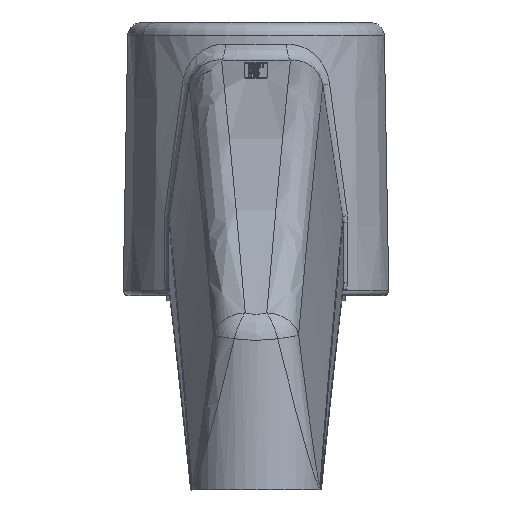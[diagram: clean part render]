
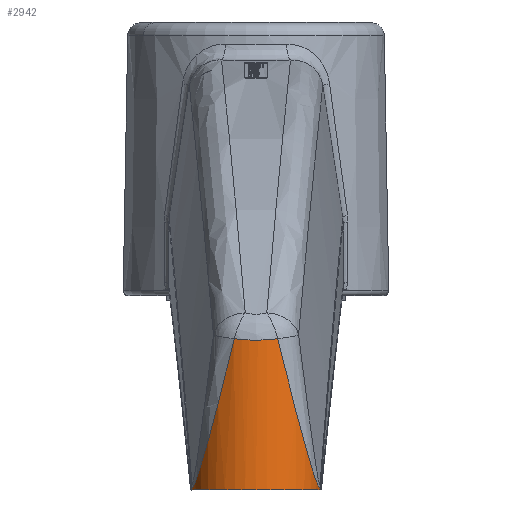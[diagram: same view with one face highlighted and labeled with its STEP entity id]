
A CAD part, front view. The second image highlights one B-rep face of the part: STEP entity #2942.
In plain terms, the highlighted cylindrical face has radius 20 mm (diameter 40 mm), a partial arc.
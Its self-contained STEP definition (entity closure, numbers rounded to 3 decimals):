
#2157=CARTESIAN_POINT('Vertex',(19.961,-226.243,0.)) ;
#2160=CARTESIAN_POINT('Axis2P3D Location',(0.,-225.,0.)) ;
#2164=CARTESIAN_POINT('Vertex',(-19.961,-226.243,0.)) ;
#2845=CARTESIAN_POINT('Axis2P3D Location',(0.,-225.,70.)) ;
#2851=CARTESIAN_POINT('Control Point',(6.663,-243.857,46.678)) ;
#2852=CARTESIAN_POINT('Control Point',(7.015,-243.733,45.256)) ;
#2853=CARTESIAN_POINT('Control Point',(7.368,-243.599,43.834)) ;
#2854=CARTESIAN_POINT('Control Point',(7.721,-243.455,42.415)) ;
#2855=CARTESIAN_POINT('Control Point',(8.785,-242.993,38.158)) ;
#2856=CARTESIAN_POINT('Control Point',(9.857,-242.431,33.917)) ;
#2857=CARTESIAN_POINT('Control Point',(10.575,-242.008,31.101)) ;
#2858=CARTESIAN_POINT('Control Point',(11.9,-241.13,25.96)) ;
#2859=CARTESIAN_POINT('Control Point',(13.251,-240.013,20.852)) ;
#2860=CARTESIAN_POINT('Control Point',(13.865,-239.452,18.563)) ;
#2861=CARTESIAN_POINT('Control Point',(14.891,-238.414,14.802)) ;
#2862=CARTESIAN_POINT('Control Point',(15.952,-237.091,11.083)) ;
#2863=CARTESIAN_POINT('Control Point',(16.366,-236.53,9.664)) ;
#2864=CARTESIAN_POINT('Control Point',(17.037,-235.535,7.419)) ;
#2865=CARTESIAN_POINT('Control Point',(17.739,-234.262,5.237)) ;
#2866=CARTESIAN_POINT('Control Point',(17.995,-233.759,4.468)) ;
#2867=CARTESIAN_POINT('Control Point',(18.407,-232.876,3.279)) ;
#2868=CARTESIAN_POINT('Control Point',(18.833,-231.753,2.202)) ;
#2869=CARTESIAN_POINT('Control Point',(18.988,-231.312,1.835)) ;
#2870=CARTESIAN_POINT('Control Point',(19.219,-230.577,1.337)) ;
#2871=CARTESIAN_POINT('Control Point',(19.435,-229.732,0.984)) ;
#2872=CARTESIAN_POINT('Control Point',(19.505,-229.437,0.885)) ;
#2873=CARTESIAN_POINT('Control Point',(19.689,-228.582,0.68)) ;
#2874=CARTESIAN_POINT('Control Point',(19.828,-227.711,0.687)) ;
#2875=CARTESIAN_POINT('Control Point',(19.89,-227.183,0.784)) ;
#2876=CARTESIAN_POINT('Control Point',(19.933,-226.696,0.936)) ;
#2877=CARTESIAN_POINT('Control Point',(19.961,-226.243,1.129)) ;
#2878=CARTESIAN_POINT('Vertex',(6.663,-243.857,46.678)) ;
#2880=CARTESIAN_POINT('Vertex',(19.961,-226.243,1.129)) ;
#2884=CARTESIAN_POINT('Control Point',(6.663,-243.857,46.678)) ;
#2885=CARTESIAN_POINT('Control Point',(4.124,-244.755,46.341)) ;
#2886=CARTESIAN_POINT('Control Point',(1.403,-245.237,46.158)) ;
#2887=CARTESIAN_POINT('Control Point',(-1.403,-245.237,46.158)) ;
#2888=CARTESIAN_POINT('Control Point',(-4.124,-244.755,46.341)) ;
#2889=CARTESIAN_POINT('Control Point',(-6.663,-243.857,46.678)) ;
#2890=CARTESIAN_POINT('Vertex',(-6.663,-243.857,46.678)) ;
#2894=CARTESIAN_POINT('Control Point',(-19.961,-226.243,1.129)) ;
#2895=CARTESIAN_POINT('Control Point',(-19.935,-226.665,0.949)) ;
#2896=CARTESIAN_POINT('Control Point',(-19.896,-227.117,0.805)) ;
#2897=CARTESIAN_POINT('Control Point',(-19.84,-227.605,0.707)) ;
#2898=CARTESIAN_POINT('Control Point',(-19.717,-228.419,0.674)) ;
#2899=CARTESIAN_POINT('Control Point',(-19.551,-229.232,0.831)) ;
#2900=CARTESIAN_POINT('Control Point',(-19.485,-229.522,0.913)) ;
#2901=CARTESIAN_POINT('Control Point',(-19.285,-230.341,1.213)) ;
#2902=CARTESIAN_POINT('Control Point',(-19.067,-231.067,1.66)) ;
#2903=CARTESIAN_POINT('Control Point',(-18.921,-231.501,1.993)) ;
#2904=CARTESIAN_POINT('Control Point',(-18.52,-232.604,2.975)) ;
#2905=CARTESIAN_POINT('Control Point',(-18.129,-233.475,4.077)) ;
#2906=CARTESIAN_POINT('Control Point',(-17.887,-233.971,4.792)) ;
#2907=CARTESIAN_POINT('Control Point',(-17.218,-235.236,6.837)) ;
#2908=CARTESIAN_POINT('Control Point',(-16.578,-236.222,8.952)) ;
#2909=CARTESIAN_POINT('Control Point',(-16.182,-236.781,10.293)) ;
#2910=CARTESIAN_POINT('Control Point',(-15.105,-238.18,14.031)) ;
#2911=CARTESIAN_POINT('Control Point',(-14.066,-239.261,17.818)) ;
#2912=CARTESIAN_POINT('Control Point',(-13.424,-239.862,20.202)) ;
#2913=CARTESIAN_POINT('Control Point',(-12.025,-241.041,25.476)) ;
#2914=CARTESIAN_POINT('Control Point',(-10.655,-241.959,30.787)) ;
#2915=CARTESIAN_POINT('Control Point',(-9.92,-242.397,33.668)) ;
#2916=CARTESIAN_POINT('Control Point',(-8.825,-242.974,37.998)) ;
#2917=CARTESIAN_POINT('Control Point',(-7.739,-243.448,42.345)) ;
#2918=CARTESIAN_POINT('Control Point',(-7.38,-243.595,43.788)) ;
#2919=CARTESIAN_POINT('Control Point',(-7.021,-243.731,45.232)) ;
#2920=CARTESIAN_POINT('Control Point',(-6.663,-243.857,46.678)) ;
#2921=CARTESIAN_POINT('Vertex',(-19.961,-226.243,1.129)) ;
#2924=CARTESIAN_POINT('Line Origine',(-19.961,-226.243,70.)) ;
#2929=CARTESIAN_POINT('Line Origine',(19.961,-226.243,70.)) ;
#2161=DIRECTION('Axis2P3D Direction',(0.,0.,1.)) ;
#2846=DIRECTION('Axis2P3D Direction',(0.,0.,1.)) ;
#2847=DIRECTION('Axis2P3D XDirection',(-0.998,-0.062,-0.)) ;
#2925=DIRECTION('Vector Direction',(0.,0.,1.)) ;
#2930=DIRECTION('Vector Direction',(0.,0.,1.)) ;
#2162=AXIS2_PLACEMENT_3D('Circle Axis2P3D',#2160,#2161,$) ;
#2848=AXIS2_PLACEMENT_3D('Cylinder Axis2P3D',#2845,#2846,#2847) ;
#2935=ORIENTED_EDGE('',*,*,#2882,.F.) ;
#2936=ORIENTED_EDGE('',*,*,#2892,.F.) ;
#2937=ORIENTED_EDGE('',*,*,#2923,.F.) ;
#2938=ORIENTED_EDGE('',*,*,#2928,.F.) ;
#2939=ORIENTED_EDGE('',*,*,#2166,.F.) ;
#2940=ORIENTED_EDGE('',*,*,#2933,.T.) ;
#2926=VECTOR('Line Direction',#2925,1.) ;
#2931=VECTOR('Line Direction',#2930,1.) ;
#2942=ADVANCED_FACE('PartBody',(#2941),#2849,.T.) ;
#2850=B_SPLINE_CURVE_WITH_KNOTS('',5,(#2851,#2852,#2853,#2854,#2855,#2856,#2857,#2858,#2859,#2860,#2861,#2862,#2863,#2864,#2865,#2866,#2867,#2868,#2869,#2870,#2871,#2872,#2873,#2874,#2875,#2876,#2877),.UNSPECIFIED.,.F.,.U.,(6,3,3,3,3,3,3,3,6),(23.371,34.285,56.142,74.248,85.784,92.365,96.007,97.847,101.19),.UNSPECIFIED.) ;
#2883=B_SPLINE_CURVE_WITH_KNOTS('',5,(#2884,#2885,#2886,#2887,#2888,#2889),.UNSPECIFIED.,.F.,.U.,(6,6),(66.259,81.521),.UNSPECIFIED.) ;
#2893=B_SPLINE_CURVE_WITH_KNOTS('',5,(#2894,#2895,#2896,#2897,#2898,#2899,#2900,#2901,#2902,#2903,#2904,#2905,#2906,#2907,#2908,#2909,#2910,#2911,#2912,#2913,#2914,#2915,#2916,#2917,#2918,#2919,#2920),.UNSPECIFIED.,.F.,.U.,(6,3,3,3,3,3,3,3,6),(114.613,117.731,119.505,122.926,129.097,140.045,158.967,181.332,192.423),.UNSPECIFIED.) ;
#2163=CIRCLE('generated circle',#2162,20.) ;
#2849=CYLINDRICAL_SURFACE('generated cylinder',#2848,20.) ;
#2166=EDGE_CURVE('',#2158,#2165,#2163,.F.) ;
#2882=EDGE_CURVE('',#2879,#2881,#2850,.T.) ;
#2892=EDGE_CURVE('',#2891,#2879,#2883,.F.) ;
#2923=EDGE_CURVE('',#2922,#2891,#2893,.T.) ;
#2928=EDGE_CURVE('',#2165,#2922,#2927,.T.) ;
#2933=EDGE_CURVE('',#2158,#2881,#2932,.T.) ;
#2934=EDGE_LOOP('',(#2935,#2936,#2937,#2938,#2939,#2940)) ;
#2941=FACE_OUTER_BOUND('',#2934,.T.) ;
#2927=LINE('Line',#2924,#2926) ;
#2932=LINE('Line',#2929,#2931) ;
#2158=VERTEX_POINT('',#2157) ;
#2165=VERTEX_POINT('',#2164) ;
#2879=VERTEX_POINT('',#2878) ;
#2881=VERTEX_POINT('',#2880) ;
#2891=VERTEX_POINT('',#2890) ;
#2922=VERTEX_POINT('',#2921) ;
